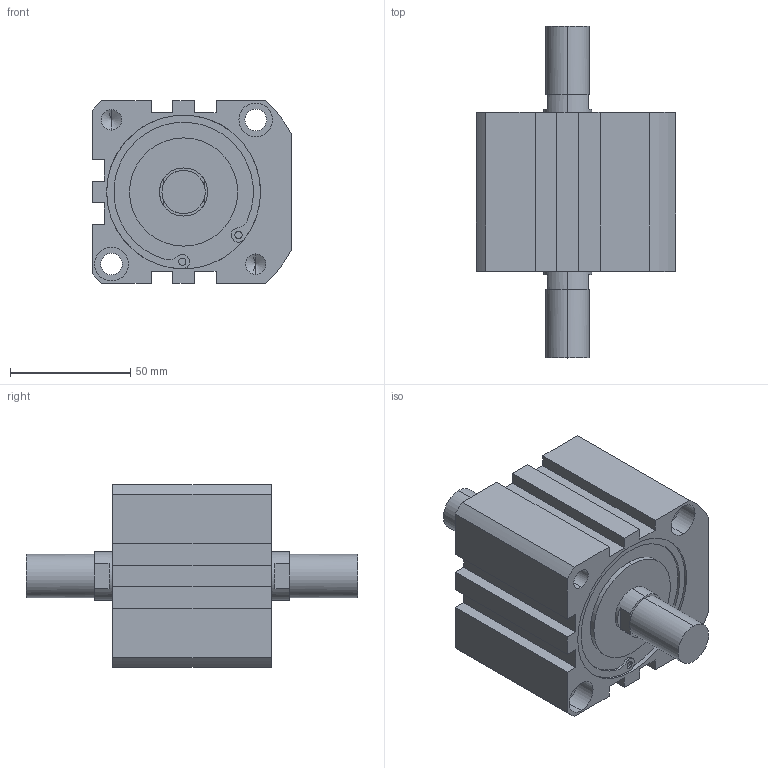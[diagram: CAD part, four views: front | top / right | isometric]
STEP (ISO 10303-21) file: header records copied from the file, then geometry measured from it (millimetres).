
FILE_DESCRIPTION (( 'STEP AP203' ), '1' );
FILE_NAME ('XG#M7-63-10.STEP', '2016-05-24T02:25:00', ( '' ), ( '' ), 'SwSTEP 2.0', 'SolidWorks 2014', '' );
FILE_SCHEMA (( 'CONFIG_CONTROL_DESIGN' ));
Length unit declared in the file: millimetre
Products named in the file (1): XG#M7-63-10
Bounding box: 83 x 138 x 76 mm (x, y, z)
Volume: 380890.2 mm3; surface area: 48884.1 mm2
Topology: 1 solids, 1 shells, 149 faces, 373 edges, 236 vertices
Faces by surface type: cylinder 69, plane 64, cone 16
Entity records: 4494 total; most frequent: DIRECTION 827, CARTESIAN_POINT 747, ORIENTED_EDGE 722, EDGE_CURVE 361, AXIS2_PLACEMENT_3D 316, VERTEX_POINT 236, VECTOR 195, LINE 195
